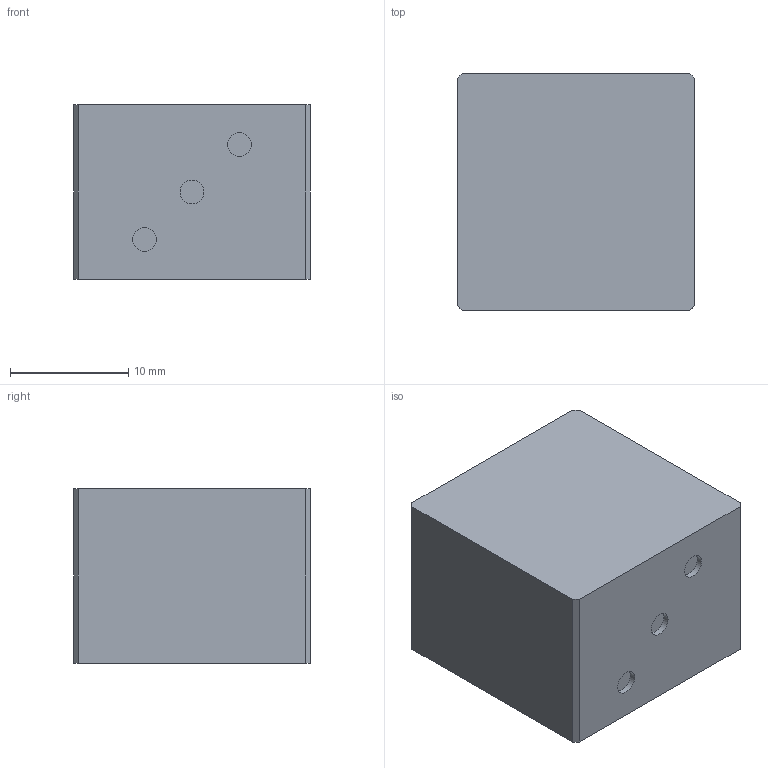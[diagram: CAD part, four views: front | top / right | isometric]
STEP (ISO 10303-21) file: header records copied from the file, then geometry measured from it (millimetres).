
FILE_DESCRIPTION(('Open CASCADE Model'),'2;1');
FILE_NAME('Open CASCADE Shape Model','2026-08-23T08:04:37',('Author'),( 'Open CASCADE'),'Open CASCADE STEP processor 7.9','Open CASCADE 7.9' ,'Unknown');
FILE_SCHEMA(('AUTOMOTIVE_DESIGN { 1 0 10303 214 1 1 1 1 }'));
Length unit declared in the file: millimetre
Products named in the file (2): =>[0:1:1:2]; COMPOUND
Assembly tree (1 placements, depth 2):
  =>[0:1:1:2]
    COMPOUND
Bounding box: 20 x 20 x 14.75 mm (x, y, z)
Volume: 5890.6 mm3; surface area: 1975 mm2
Topology: 1 solids, 1 shells, 16 faces, 33 edges, 22 vertices
Faces by surface type: plane 13, cylinder 3
Full cylindrical faces by diameter (mm): 2 x3
Entity records: 905 total; most frequent: CARTESIAN_POINT 157, DIRECTION 138, LINE 87, VECTOR 87, ORIENTED_EDGE 66, PCURVE 66, DEFINITIONAL_REPRESENTATION 66, EDGE_CURVE 33
